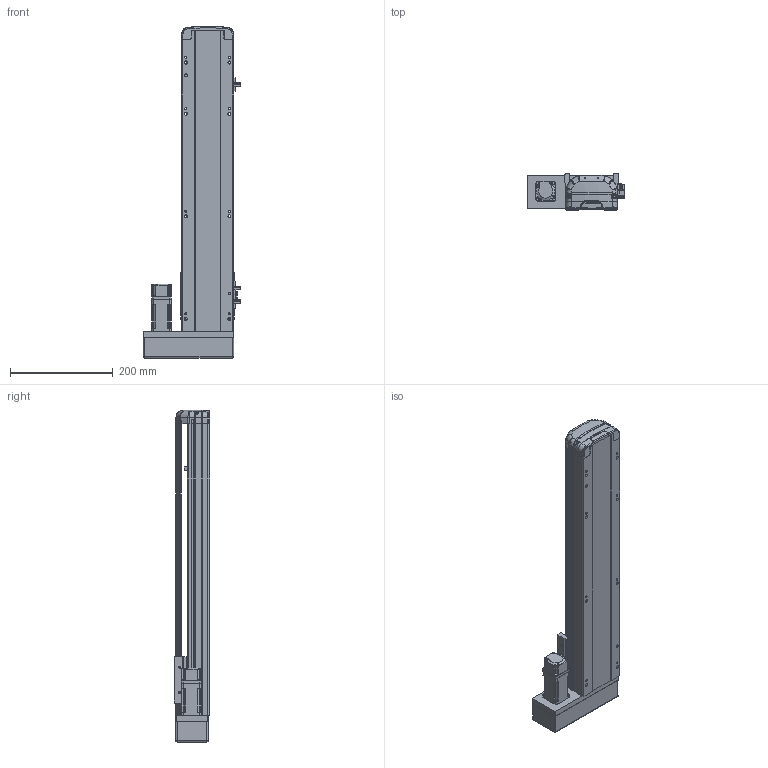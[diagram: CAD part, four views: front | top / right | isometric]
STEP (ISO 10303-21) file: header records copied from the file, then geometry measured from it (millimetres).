
FILE_DESCRIPTION (( 'STEP AP214' ), '1' );
FILE_NAME ('RTH10-XX-400-L-M10-C4.STEP', '2025-10-25T05:34:14', ( 'Microsoft' ), ( 'Microsoft' ), 'SwSTEP 2.0', 'SolidWorks 2018', '' );
FILE_SCHEMA (( 'AUTOMOTIVE_DESIGN' ));
Length unit declared in the file: millimetre
Products named in the file (10): N_RTH12-L-008萇儂啣^RTH10-XX-XX-L-M10-C4; N_RTH12-M-007P-奻裔^RTH10-XX-XX-L-M10-C4; N_RTH12-M-011P-臏倰第菁釱^RTH10-XX-XX-L-M10-C4; N_P10^RTH10-XX-XX-L-M10-C4; N_RTH12-GY-004-賑釱^RTH10-XX-XX-L-M10-C4; N_RTH12-L-018-裔赽^RTH10-XX-XX-L-M10-C4; RTH10-XX-400-L-M10-C4; N_OMRON EE-SX672 传感器^RTH10-XX-XX-L-M10-C4; N_RTH13-L-012覜茼え俋离^RTH10-XX-XX-L-M10-C4; N_RTH12-GY-001P^RTH10-XX-XX-L-M10-C4
Assembly tree (11 placements, depth 2):
  RTH10-XX-400-L-M10-C4
    N_RTH12-M-011P-臏倰第菁釱^RTH10-XX-XX-L-M10-C4
    N_RTH13-L-012覜茼え俋离^RTH10-XX-XX-L-M10-C4
    N_OMRON EE-SX672 传感器^RTH10-XX-XX-L-M10-C4  x3
    N_P10^RTH10-XX-XX-L-M10-C4
    N_RTH12-M-007P-奻裔^RTH10-XX-XX-L-M10-C4
    N_RTH12-L-008萇儂啣^RTH10-XX-XX-L-M10-C4
    N_RTH12-L-018-裔赽^RTH10-XX-XX-L-M10-C4
    N_RTH12-GY-004-賑釱^RTH10-XX-XX-L-M10-C4
    N_RTH12-GY-001P^RTH10-XX-XX-L-M10-C4
Bounding box: 190 x 70 x 647.14 mm (x, y, z)
Volume: 3012663.8 mm3; surface area: 474365.8 mm2
Topology: 10 solids, 12 shells, 1900 faces, 5290 edges, 3469 vertices
Faces by surface type: plane 943, bspline 472, cylinder 450, cone 29, sphere 4, torus 2
Entity records: 56926 total; most frequent: CARTESIAN_POINT 22869, ORIENTED_EDGE 7652, DIRECTION 5832, EDGE_CURVE 3832, VERTEX_POINT 2513, VECTOR 2016, LINE 2016, AXIS2_PLACEMENT_3D 1908
